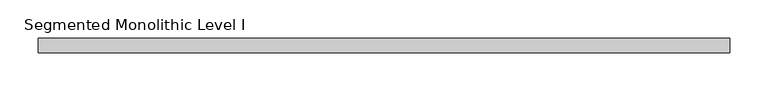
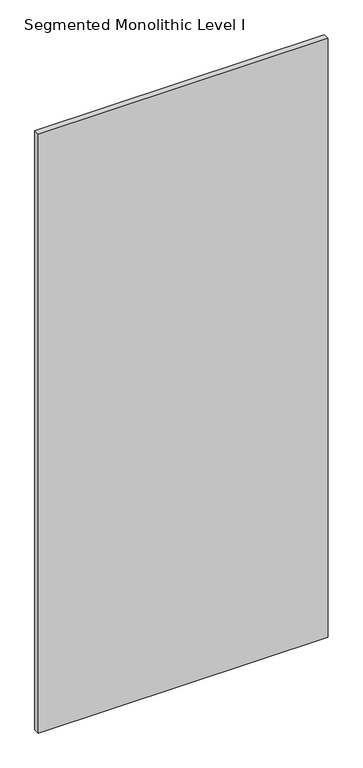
"""IFC4 building model written with IfcOpenShell, lengths in millimetres: proxy geometry, Panel-Fascia-Teknion-Altos-Standard : Segmented Monolithic Level I."""

from ifc_helpers import new_model, si_unit, frame, origin, place, context, project, spatial, polyline, outline, extrude, source, transform, mapped, element, save


def segmented_monolithic_level_i_a3fcbb55(model_context):
    return source(origin(), model_context, "Body", "SweptSolid", [
        extrude(outline(polyline([(454.025, -9.525), (-454.025, -9.525), (-454.025, 9.525), (454.025, 9.525), (454.025, -9.525)])), frame((0.0, 0.0, 3.175), z_axis=(0.0, 0.0, 1.0), x_axis=(1.0, 0.0, 0.0)), (0.0, 0.0, 1.0), 1982.47),
    ])


if __name__ == "__main__":
    model = new_model("IFC4")
    model_context = context("Model", 3, world=origin())
    ifc_project = project(units=[si_unit("LENGTHUNIT", "METRE", prefix="MILLI")], contexts=[model_context])
    site = spatial("IfcSite", under=ifc_project)
    building = spatial("IfcBuilding", under=site)
    placement = place(None, origin())
    segmented_monolithic_level_i_shape = segmented_monolithic_level_i_a3fcbb55(model_context)
    element("IfcBuildingElementProxy", 1, Name="Panel-Fascia-Teknion-Altos-Standard : Segmented Monolithic Level I", ObjectType="Panel-Fascia-Teknion-Altos-Standard : Segmented Monolithic Level I", at=placement, inside=building, context=model_context, shape_type="MappedRepresentation", body=[
        mapped(segmented_monolithic_level_i_shape, transform((0.0, 0.0, 0.0), x_axis=(1.0, 0.0, 0.0), y_axis=(0.0, 1.0, 0.0), z_axis=(0.0, 0.0, 1.0))),
    ])
    save(model, "model.ifc")
